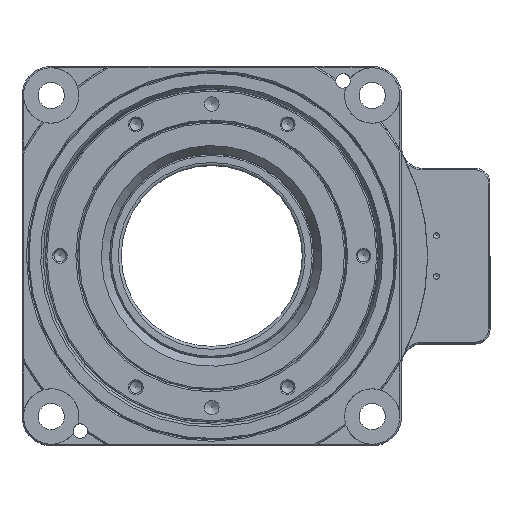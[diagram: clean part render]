
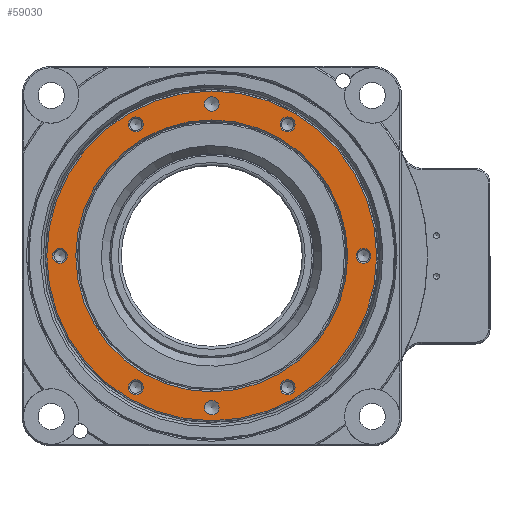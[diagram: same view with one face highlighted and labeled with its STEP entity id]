
A CAD part, top view. The second image highlights one B-rep face of the part: STEP entity #59030.
In plain terms, the highlighted planar face has unit normal (0, 0, 1).
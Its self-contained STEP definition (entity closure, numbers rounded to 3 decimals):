
#57491=CARTESIAN_POINT('',(-52.,2.567,37.));
#57492=VERTEX_POINT('',#57491);
#57493=CARTESIAN_POINT('',(-52.,0.,37.));
#57494=DIRECTION('',(0.0,0.0,1.0));
#57495=DIRECTION('',(0.0,-1.0,0.0));
#57496=AXIS2_PLACEMENT_3D('',#57493,#57494,#57495);
#57497=CIRCLE('',#57496,2.567);
#57498=EDGE_CURVE('',#57492,#57492,#57497,.T.);
#57616=CARTESIAN_POINT('',(-28.223,-43.75,37.));
#57617=VERTEX_POINT('',#57616);
#57618=CARTESIAN_POINT('',(-26.,-45.033,37.));
#57619=DIRECTION('',(0.,0.,1.0));
#57620=DIRECTION('',(0.866,-0.5,0.));
#57621=AXIS2_PLACEMENT_3D('',#57618,#57619,#57620);
#57622=CIRCLE('',#57621,2.567);
#57623=EDGE_CURVE('',#57617,#57617,#57622,.T.);
#57656=CARTESIAN_POINT('',(23.777,-46.317,37.));
#57657=VERTEX_POINT('',#57656);
#57658=CARTESIAN_POINT('',(26.,-45.033,37.));
#57659=DIRECTION('',(0.,0.,1.0));
#57660=DIRECTION('',(0.866,0.5,0.));
#57661=AXIS2_PLACEMENT_3D('',#57658,#57659,#57660);
#57662=CIRCLE('',#57661,2.567);
#57663=EDGE_CURVE('',#57657,#57657,#57662,.T.);
#57696=CARTESIAN_POINT('',(52.,-2.567,37.));
#57697=VERTEX_POINT('',#57696);
#57698=CARTESIAN_POINT('',(52.,0.,37.));
#57699=DIRECTION('',(0.0,0.0,1.0));
#57700=DIRECTION('',(0.0,1.0,0.0));
#57701=AXIS2_PLACEMENT_3D('',#57698,#57699,#57700);
#57702=CIRCLE('',#57701,2.567);
#57703=EDGE_CURVE('',#57697,#57697,#57702,.T.);
#57736=CARTESIAN_POINT('',(28.223,43.75,37.));
#57737=VERTEX_POINT('',#57736);
#57738=CARTESIAN_POINT('',(26.,45.033,37.));
#57739=DIRECTION('',(0.,0.,1.0));
#57740=DIRECTION('',(-0.866,0.5,0.));
#57741=AXIS2_PLACEMENT_3D('',#57738,#57739,#57740);
#57742=CIRCLE('',#57741,2.567);
#57743=EDGE_CURVE('',#57737,#57737,#57742,.T.);
#57776=CARTESIAN_POINT('',(-23.777,46.317,37.));
#57777=VERTEX_POINT('',#57776);
#57778=CARTESIAN_POINT('',(-26.,45.033,37.));
#57779=DIRECTION('',(0.,0.,1.0));
#57780=DIRECTION('',(-0.866,-0.5,0.));
#57781=AXIS2_PLACEMENT_3D('',#57778,#57779,#57780);
#57782=CIRCLE('',#57781,2.567);
#57783=EDGE_CURVE('',#57777,#57777,#57782,.T.);
#57793=CARTESIAN_POINT('',(0.,54.5,37.));
#57794=VERTEX_POINT('',#57793);
#57795=CARTESIAN_POINT('',(0.,52.,37.));
#57796=DIRECTION('',(0.0,0.0,-1.0));
#57797=DIRECTION('',(0.0,1.0,0.0));
#57798=AXIS2_PLACEMENT_3D('',#57795,#57796,#57797);
#57799=CIRCLE('',#57798,2.5);
#57800=EDGE_CURVE('',#57794,#57794,#57799,.T.);
#57830=CARTESIAN_POINT('',(0.,-49.5,37.));
#57831=VERTEX_POINT('',#57830);
#57832=CARTESIAN_POINT('',(0.,-52.,37.));
#57833=DIRECTION('',(0.0,0.0,-1.0));
#57834=DIRECTION('',(0.0,1.0,0.0));
#57835=AXIS2_PLACEMENT_3D('',#57832,#57833,#57834);
#57836=CIRCLE('',#57835,2.5);
#57837=EDGE_CURVE('',#57831,#57831,#57836,.T.);
#57867=CARTESIAN_POINT('',(0.,-46.577,37.));
#57868=VERTEX_POINT('',#57867);
#57869=CARTESIAN_POINT('',(0.,0.,37.));
#57870=DIRECTION('',(0.0,0.0,1.0));
#57871=DIRECTION('',(0.0,1.0,0.0));
#57872=AXIS2_PLACEMENT_3D('',#57869,#57870,#57871);
#57873=CIRCLE('',#57872,46.577);
#57874=EDGE_CURVE('',#57868,#57868,#57873,.T.);
#58987=CARTESIAN_POINT('',(0.,-51.5,37.));
#58988=DIRECTION('',(0.0,0.0,1.0));
#58989=DIRECTION('',(1.0,0.0,0.0));
#58990=AXIS2_PLACEMENT_3D('',#58987,#58988,#58989);
#58991=PLANE('',#58990);
#58992=CARTESIAN_POINT('',(0.,-56.5,37.));
#58993=VERTEX_POINT('',#58992);
#58994=CARTESIAN_POINT('',(0.,0.,37.));
#58995=DIRECTION('',(0.0,0.0,-1.0));
#58996=DIRECTION('',(0.0,1.0,0.0));
#58997=AXIS2_PLACEMENT_3D('',#58994,#58995,#58996);
#58998=CIRCLE('',#58997,56.5);
#58999=EDGE_CURVE('',#58993,#58993,#58998,.T.);
#59000=ORIENTED_EDGE('',*,*,#58999,.F.);
#59001=EDGE_LOOP('',(#59000));
#59002=FACE_OUTER_BOUND('',#59001,.T.);
#59003=ORIENTED_EDGE('',*,*,#57874,.F.);
#59004=EDGE_LOOP('',(#59003));
#59005=FACE_BOUND('',#59004,.T.);
#59006=ORIENTED_EDGE('',*,*,#57837,.T.);
#59007=EDGE_LOOP('',(#59006));
#59008=FACE_BOUND('',#59007,.T.);
#59009=ORIENTED_EDGE('',*,*,#57800,.T.);
#59010=EDGE_LOOP('',(#59009));
#59011=FACE_BOUND('',#59010,.T.);
#59012=ORIENTED_EDGE('',*,*,#57743,.F.);
#59013=EDGE_LOOP('',(#59012));
#59014=FACE_BOUND('',#59013,.T.);
#59015=ORIENTED_EDGE('',*,*,#57663,.F.);
#59016=EDGE_LOOP('',(#59015));
#59017=FACE_BOUND('',#59016,.T.);
#59018=ORIENTED_EDGE('',*,*,#57498,.F.);
#59019=EDGE_LOOP('',(#59018));
#59020=FACE_BOUND('',#59019,.T.);
#59021=ORIENTED_EDGE('',*,*,#57623,.F.);
#59022=EDGE_LOOP('',(#59021));
#59023=FACE_BOUND('',#59022,.T.);
#59024=ORIENTED_EDGE('',*,*,#57703,.F.);
#59025=EDGE_LOOP('',(#59024));
#59026=FACE_BOUND('',#59025,.T.);
#59027=ORIENTED_EDGE('',*,*,#57783,.F.);
#59028=EDGE_LOOP('',(#59027));
#59029=FACE_BOUND('',#59028,.T.);
#59030=ADVANCED_FACE('',(#59002,#59005,#59008,#59011,#59014,#59017,#59020,#59023,#59026,#59029),#58991,.T.);
